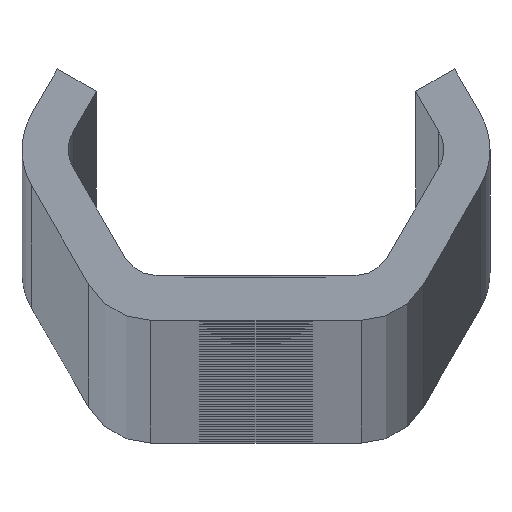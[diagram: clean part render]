
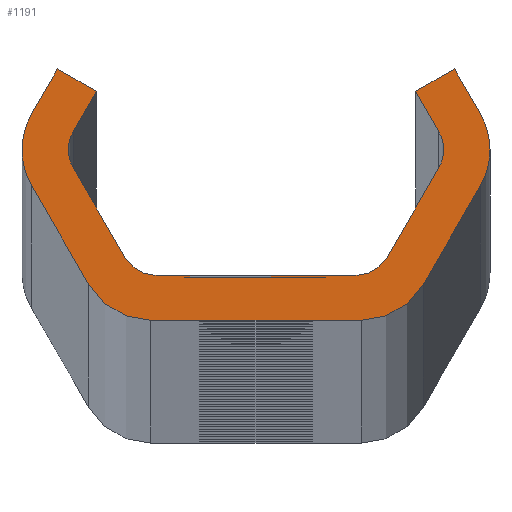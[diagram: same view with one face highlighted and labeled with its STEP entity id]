
A CAD part, top view. The second image highlights one B-rep face of the part: STEP entity #1191.
In plain terms, the highlighted planar face has unit normal (0, 0, 1).
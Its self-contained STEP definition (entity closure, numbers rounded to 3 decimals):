
#1191=ADVANCED_FACE('NONE',(#3228),#3229,.F.);
#3228=FACE_OUTER_BOUND('',#10297,.T.);
#3229=PLANE('',#10298);
#10297=EDGE_LOOP('',(#21130,#21131,#21132,#21133,#21134,#21135,#21136,#21137,#21138,#21139,#21140,#21141,#21142,#21143,#21144,#21145,#21146,#21147,#21148,#21149,#21150,#21151,#21152,#21153,#21154,#21155,#21156,#21157));
#10298=AXIS2_PLACEMENT_3D('',#21158,#21159,#21160);
#21130=ORIENTED_EDGE('',*,*,#27789,.F.);
#21131=ORIENTED_EDGE('',*,*,#27790,.T.);
#21132=ORIENTED_EDGE('',*,*,#27287,.F.);
#21133=ORIENTED_EDGE('',*,*,#27791,.T.);
#21134=ORIENTED_EDGE('',*,*,#27755,.T.);
#21135=ORIENTED_EDGE('',*,*,#27792,.T.);
#21136=ORIENTED_EDGE('',*,*,#26615,.T.);
#21137=ORIENTED_EDGE('',*,*,#27758,.T.);
#21138=ORIENTED_EDGE('',*,*,#27764,.T.);
#21139=ORIENTED_EDGE('',*,*,#27768,.T.);
#21140=ORIENTED_EDGE('',*,*,#27793,.T.);
#21141=ORIENTED_EDGE('',*,*,#26887,.T.);
#21142=ORIENTED_EDGE('',*,*,#27772,.T.);
#21143=ORIENTED_EDGE('',*,*,#27794,.T.);
#21144=ORIENTED_EDGE('',*,*,#27774,.T.);
#21145=ORIENTED_EDGE('',*,*,#27795,.T.);
#21146=ORIENTED_EDGE('',*,*,#27783,.F.);
#21147=ORIENTED_EDGE('',*,*,#27796,.T.);
#21148=ORIENTED_EDGE('',*,*,#26620,.T.);
#21149=ORIENTED_EDGE('',*,*,#27786,.F.);
#21150=ORIENTED_EDGE('',*,*,#27270,.F.);
#21151=ORIENTED_EDGE('',*,*,#27274,.F.);
#21152=ORIENTED_EDGE('',*,*,#26884,.T.);
#21153=ORIENTED_EDGE('',*,*,#27797,.T.);
#21154=ORIENTED_EDGE('',*,*,#27278,.F.);
#21155=ORIENTED_EDGE('',*,*,#27798,.T.);
#21156=ORIENTED_EDGE('',*,*,#27283,.F.);
#21157=ORIENTED_EDGE('',*,*,#27799,.T.);
#21158=CARTESIAN_POINT('',(0.0,0.0,3920.0));
#21159=DIRECTION('',(0.0,0.0,-1.0));
#21160=DIRECTION('',(0.0,-1.0,0.0));
#26615=EDGE_CURVE('NONE',#29637,#29641,#29643,.T.);
#26620=EDGE_CURVE('NONE',#29646,#29650,#29652,.T.);
#26884=EDGE_CURVE('NONE',#30127,#30125,#30128,.T.);
#26887=EDGE_CURVE('NONE',#30131,#30132,#30133,.T.);
#27270=EDGE_CURVE('NONE',#30707,#30709,#30710,.T.);
#27274=EDGE_CURVE('NONE',#30127,#30707,#30714,.T.);
#27278=EDGE_CURVE('NONE',#30719,#30721,#30722,.T.);
#27283=EDGE_CURVE('NONE',#30728,#30730,#30731,.T.);
#27287=EDGE_CURVE('NONE',#30736,#30726,#30738,.T.);
#27755=EDGE_CURVE('NONE',#31646,#31644,#31647,.T.);
#27758=EDGE_CURVE('NONE',#29641,#31650,#31651,.T.);
#27764=EDGE_CURVE('NONE',#31650,#31658,#31660,.T.);
#27768=EDGE_CURVE('NONE',#31658,#31664,#31666,.T.);
#27772=EDGE_CURVE('NONE',#30132,#31670,#31672,.T.);
#27774=EDGE_CURVE('NONE',#31674,#31675,#31676,.T.);
#27783=EDGE_CURVE('NONE',#31688,#31690,#31691,.T.);
#27786=EDGE_CURVE('NONE',#30709,#29650,#31694,.T.);
#27789=EDGE_CURVE('NONE',#31697,#31698,#31699,.T.);
#27790=EDGE_CURVE('NONE',#31697,#30726,#31700,.T.);
#27791=EDGE_CURVE('NONE',#30736,#31646,#31701,.T.);
#27792=EDGE_CURVE('NONE',#31644,#29637,#31702,.T.);
#27793=EDGE_CURVE('NONE',#31664,#30131,#31703,.T.);
#27794=EDGE_CURVE('NONE',#31670,#31674,#31704,.T.);
#27795=EDGE_CURVE('NONE',#31675,#31690,#31705,.T.);
#27796=EDGE_CURVE('NONE',#31688,#29646,#31706,.T.);
#27797=EDGE_CURVE('NONE',#30125,#30721,#31707,.T.);
#27798=EDGE_CURVE('NONE',#30719,#30730,#31708,.T.);
#27799=EDGE_CURVE('NONE',#30728,#31698,#31709,.T.);
#29637=VERTEX_POINT('',#34115);
#29641=VERTEX_POINT('NONE',#34120);
#29643=CIRCLE('',#34123,2.0);
#29646=VERTEX_POINT('',#34126);
#29650=VERTEX_POINT('NONE',#34131);
#29652=CIRCLE('',#34134,4.0);
#30125=VERTEX_POINT('NONE',#38985);
#30127=VERTEX_POINT('NONE',#38988);
#30128=CIRCLE('',#38989,2.0);
#30131=VERTEX_POINT('NONE',#38993);
#30132=VERTEX_POINT('NONE',#38994);
#30133=CIRCLE('',#38995,4.0);
#30707=VERTEX_POINT('NONE',#39666);
#30709=VERTEX_POINT('NONE',#39669);
#30710=LINE('',#39670,#39671);
#30714=LINE('',#39677,#39678);
#30719=VERTEX_POINT('NONE',#39684);
#30721=VERTEX_POINT('NONE',#39687);
#30722=LINE('',#39688,#39689);
#30726=VERTEX_POINT('NONE',#39694);
#30728=VERTEX_POINT('NONE',#39697);
#30730=VERTEX_POINT('NONE',#39700);
#30731=LINE('',#39701,#39702);
#30736=VERTEX_POINT('NONE',#39709);
#30738=LINE('',#39712,#39713);
#31644=VERTEX_POINT('NONE',#43168);
#31646=VERTEX_POINT('NONE',#43171);
#31647=LINE('',#43172,#43173);
#31650=VERTEX_POINT('NONE',#43177);
#31651=LINE('',#43178,#43179);
#31658=VERTEX_POINT('NONE',#43189);
#31660=LINE('',#43192,#43193);
#31664=VERTEX_POINT('NONE',#43198);
#31666=LINE('',#43201,#43202);
#31670=VERTEX_POINT('NONE',#43207);
#31672=LINE('',#43210,#43211);
#31674=VERTEX_POINT('NONE',#43213);
#31675=VERTEX_POINT('NONE',#43214);
#31676=LINE('',#43215,#43216);
#31688=VERTEX_POINT('NONE',#43232);
#31690=VERTEX_POINT('NONE',#43235);
#31691=LINE('',#43236,#43237);
#31694=LINE('',#43241,#43242);
#31697=VERTEX_POINT('NONE',#43246);
#31698=VERTEX_POINT('NONE',#43247);
#31699=LINE('',#43248,#43249);
#31700=LINE('',#43250,#43251);
#31701=CIRCLE('',#43252,2.0);
#31702=CIRCLE('',#43253,2.0);
#31703=CIRCLE('',#43254,4.0);
#31704=CIRCLE('',#43255,4.0);
#31705=CIRCLE('',#43256,4.0);
#31706=CIRCLE('',#43257,4.0);
#31707=CIRCLE('',#43258,2.0);
#31708=CIRCLE('',#43259,2.0);
#31709=LINE('',#43260,#43261);
#34115=CARTESIAN_POINT('',(-10.455,0.,3920.0));
#34120=CARTESIAN_POINT('',(-10.187,1.,3920.0));
#34123=AXIS2_PLACEMENT_3D('',#51385,#51386,#51387);
#34126=CARTESIAN_POINT('',(13.032,0.,3920.0));
#34131=CARTESIAN_POINT('',(12.496,2.,3920.0));
#34134=AXIS2_PLACEMENT_3D('',#51393,#51394,#51395);
#38985=CARTESIAN_POINT('',(10.455,0.,3920.0));
#38988=CARTESIAN_POINT('',(10.187,1.,3920.0));
#38989=AXIS2_PLACEMENT_3D('',#51516,#51517,#51518);
#38993=CARTESIAN_POINT('',(-13.032,0.,3920.0));
#38994=CARTESIAN_POINT('',(-12.496,-2.,3920.0));
#38995=AXIS2_PLACEMENT_3D('',#51520,#51521,#51522);
#39666=CARTESIAN_POINT('',(8.888,3.25,3920.0));
#39669=CARTESIAN_POINT('',(11.053,4.5,3920.0));
#39670=CARTESIAN_POINT('',(8.888,3.25,3920.0));
#39671=VECTOR('',#52188,1000.0);
#39677=CARTESIAN_POINT('',(10.764,0.,3920.0));
#39678=VECTOR('',#52191,1000.0);
#39684=CARTESIAN_POINT('',(7.3,-6.,3920.0));
#39687=CARTESIAN_POINT('',(10.187,-1.,3920.0));
#39688=CARTESIAN_POINT('',(6.723,-7.0,3920.0));
#39689=VECTOR('',#52194,1000.0);
#39694=CARTESIAN_POINT('',(-3.702,-7.0,3920.0));
#39697=CARTESIAN_POINT('',(0.841,-7.0,3920.0));
#39700=CARTESIAN_POINT('',(5.568,-7.0,3920.0));
#39701=CARTESIAN_POINT('',(-6.723,-7.0,3920.0));
#39702=VECTOR('',#52198,1000.0);
#39709=CARTESIAN_POINT('',(-5.568,-7.0,3920.0));
#39712=CARTESIAN_POINT('',(-6.723,-7.0,3920.0));
#39713=VECTOR('',#52202,1000.0);
#43168=CARTESIAN_POINT('',(-10.187,-1.,3920.0));
#43171=CARTESIAN_POINT('',(-7.3,-6.,3920.0));
#43172=CARTESIAN_POINT('',(-6.723,-7.0,3920.0));
#43173=VECTOR('',#52622,1000.0);
#43177=CARTESIAN_POINT('',(-8.888,3.25,3920.0));
#43178=CARTESIAN_POINT('',(-10.764,0.0,3920.0));
#43179=VECTOR('',#52624,1000.0);
#43189=CARTESIAN_POINT('',(-11.053,4.5,3920.0));
#43192=CARTESIAN_POINT('',(-8.888,3.25,3920.0));
#43193=VECTOR('',#52629,1000.0);
#43198=CARTESIAN_POINT('',(-12.496,2.0,3920.0));
#43201=CARTESIAN_POINT('',(-11.053,4.5,3920.0));
#43202=VECTOR('',#52632,1000.0);
#43207=CARTESIAN_POINT('',(-9.321,-7.5,3920.0));
#43210=CARTESIAN_POINT('',(-13.651,0.0,3920.0));
#43211=VECTOR('',#52635,1000.0);
#43213=CARTESIAN_POINT('',(-5.857,-9.5,3920.0));
#43214=CARTESIAN_POINT('',(5.857,-9.5,3920.0));
#43215=CARTESIAN_POINT('',(-8.166,-9.5,3920.0));
#43216=VECTOR('',#52636,1000.0);
#43232=CARTESIAN_POINT('',(12.496,-2.,3920.0));
#43235=CARTESIAN_POINT('',(9.321,-7.5,3920.0));
#43236=CARTESIAN_POINT('',(13.651,0.,3920.0));
#43237=VECTOR('',#52648,1000.0);
#43241=CARTESIAN_POINT('',(11.053,4.5,3920.0));
#43242=VECTOR('',#52650,1000.0);
#43246=CARTESIAN_POINT('',(-3.702,-7.1,3920.0));
#43247=CARTESIAN_POINT('',(0.841,-7.1,3920.0));
#43248=CARTESIAN_POINT('',(0.,-7.1,3920.0));
#43249=VECTOR('',#52652,1000.0);
#43250=CARTESIAN_POINT('',(-3.702,0.,3920.0));
#43251=VECTOR('',#52653,1000.0);
#43252=AXIS2_PLACEMENT_3D('',#52654,#52655,#52656);
#43253=AXIS2_PLACEMENT_3D('',#52657,#52658,#52659);
#43254=AXIS2_PLACEMENT_3D('',#52660,#52661,#52662);
#43255=AXIS2_PLACEMENT_3D('',#52663,#52664,#52665);
#43256=AXIS2_PLACEMENT_3D('',#52666,#52667,#52668);
#43257=AXIS2_PLACEMENT_3D('',#52669,#52670,#52671);
#43258=AXIS2_PLACEMENT_3D('',#52672,#52673,#52674);
#43259=AXIS2_PLACEMENT_3D('',#52675,#52676,#52677);
#43260=CARTESIAN_POINT('',(0.841,0.,3920.0));
#43261=VECTOR('',#52678,1000.0);
#51385=CARTESIAN_POINT('',(-8.455,0.,3920.0));
#51386=DIRECTION('',(0.0,0.0,-1.0));
#51387=DIRECTION('',(-1.0,0.0,0.0));
#51393=CARTESIAN_POINT('',(9.032,0.,3920.0));
#51394=DIRECTION('',(0.0,0.0,1.0));
#51395=DIRECTION('',(-1.0,0.0,0.0));
#51516=CARTESIAN_POINT('',(8.455,0.,3920.0));
#51517=DIRECTION('',(0.0,0.0,-1.0));
#51518=DIRECTION('',(-1.0,0.0,0.0));
#51520=CARTESIAN_POINT('',(-9.032,0.,3920.0));
#51521=DIRECTION('',(0.0,0.0,1.0));
#51522=DIRECTION('',(-1.0,0.0,0.0));
#52188=DIRECTION('',(0.866,0.5,0.0));
#52191=DIRECTION('',(-0.5,0.866,0.0));
#52194=DIRECTION('',(0.5,0.866,0.0));
#52198=DIRECTION('',(1.0,0.,0.0));
#52202=DIRECTION('',(1.0,0.,0.0));
#52622=DIRECTION('',(-0.5,0.866,0.0));
#52624=DIRECTION('',(0.5,0.866,0.0));
#52629=DIRECTION('',(-0.866,0.5,0.0));
#52632=DIRECTION('',(-0.5,-0.866,0.0));
#52635=DIRECTION('',(0.5,-0.866,0.0));
#52636=DIRECTION('',(1.0,0.,0.0));
#52648=DIRECTION('',(-0.5,-0.866,0.0));
#52650=DIRECTION('',(0.5,-0.866,0.0));
#52652=DIRECTION('',(1.0,0.,0.0));
#52653=DIRECTION('',(0.,1.0,0.0));
#52654=CARTESIAN_POINT('',(-5.568,-5.0,3920.0));
#52655=DIRECTION('',(0.0,0.0,-1.0));
#52656=DIRECTION('',(-1.0,0.0,0.0));
#52657=CARTESIAN_POINT('',(-8.455,0.,3920.0));
#52658=DIRECTION('',(0.0,0.0,-1.0));
#52659=DIRECTION('',(-1.0,0.0,0.0));
#52660=CARTESIAN_POINT('',(-9.032,0.,3920.0));
#52661=DIRECTION('',(0.0,0.0,1.0));
#52662=DIRECTION('',(-1.0,0.,0.0));
#52663=CARTESIAN_POINT('',(-5.857,-5.5,3920.0));
#52664=DIRECTION('',(0.0,0.0,1.0));
#52665=DIRECTION('',(-1.0,0.0,0.0));
#52666=CARTESIAN_POINT('',(5.857,-5.5,3920.0));
#52667=DIRECTION('',(0.0,0.0,1.0));
#52668=DIRECTION('',(-1.0,0.0,0.0));
#52669=CARTESIAN_POINT('',(9.032,0.,3920.0));
#52670=DIRECTION('',(0.0,0.0,1.0));
#52671=DIRECTION('',(-1.0,0.0,0.0));
#52672=CARTESIAN_POINT('',(8.455,0.,3920.0));
#52673=DIRECTION('',(0.0,0.0,-1.0));
#52674=DIRECTION('',(-1.0,0.0,0.0));
#52675=CARTESIAN_POINT('',(5.568,-5.0,3920.0));
#52676=DIRECTION('',(0.0,0.0,-1.0));
#52677=DIRECTION('',(-1.0,0.0,0.0));
#52678=DIRECTION('',(0.,-1.0,0.0));
